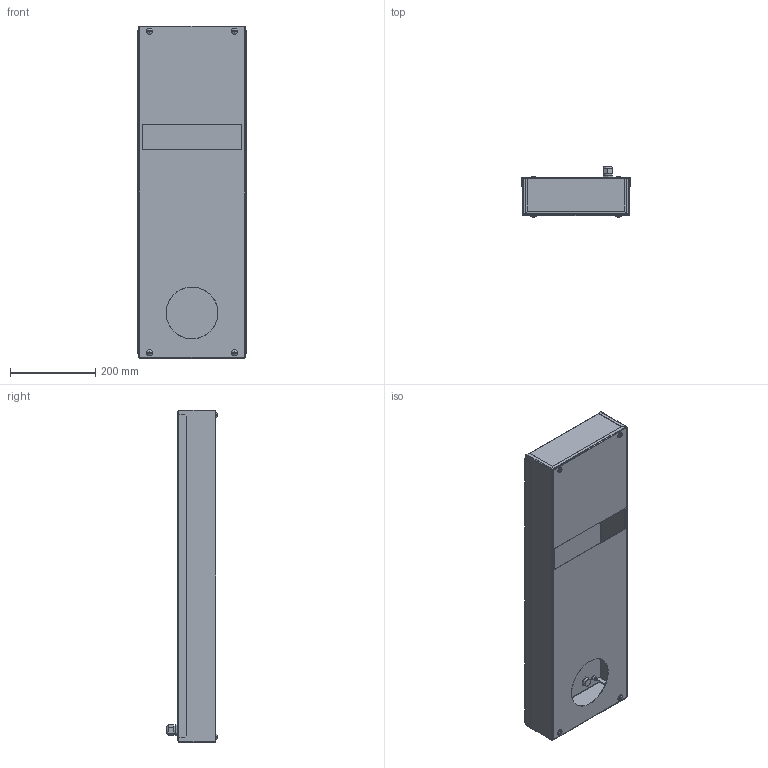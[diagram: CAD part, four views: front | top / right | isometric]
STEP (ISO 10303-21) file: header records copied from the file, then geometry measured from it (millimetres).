
FILE_DESCRIPTION(/* description */ (''),/* implementation_level */ '2;1');
FILE_NAME(/* name */ 'VAX035',/* time_stamp */ '2023-07-10T15:59:55+02:00',/* author */ (''),/* organization */ (''),/* preprocessor_version */ 'ST-DEVELOPER v16.5',/* originating_system */ '',/* authorisation */ '');
FILE_SCHEMA (('AUTOMOTIVE_DESIGN'));
Length unit declared in the file: millimetre
Products named in the file (1): Document
Bounding box: 256 x 119.82 x 781 mm (x, y, z)
Volume: 697184.6 mm3; surface area: 1153781 mm2
Topology: 15 solids, 15 shells, 316 faces, 725 edges, 455 vertices
Faces by surface type: plane 190, bspline 126
Entity records: 10577 total; most frequent: CARTESIAN_POINT 5599, ORIENTED_EDGE 1450, EDGE_CURVE 725, B_SPLINE_CURVE_WITH_KNOTS 490, VERTEX_POINT 455, EDGE_LOOP 380, ADVANCED_FACE 316, FACE_OUTER_BOUND 316
